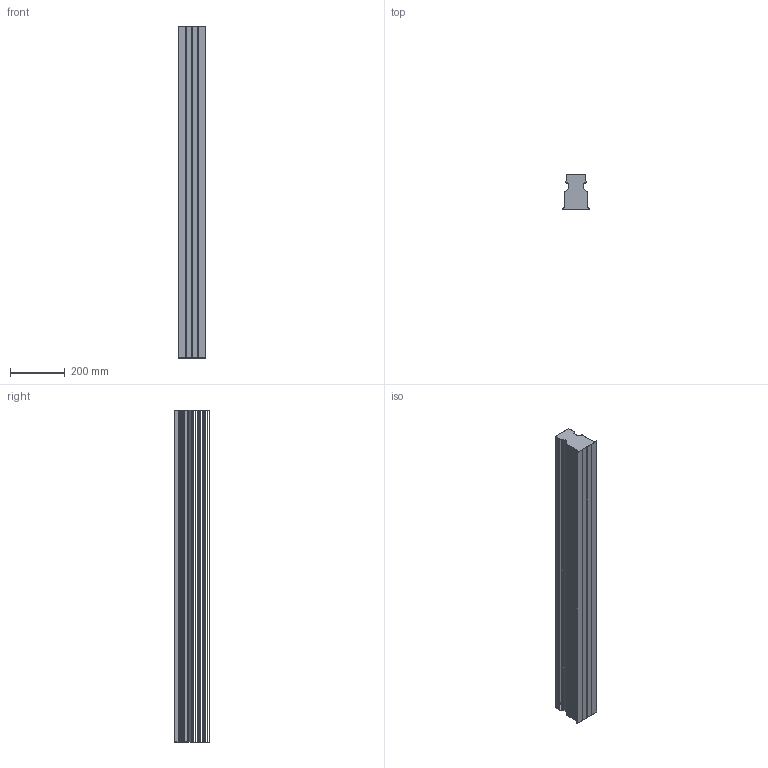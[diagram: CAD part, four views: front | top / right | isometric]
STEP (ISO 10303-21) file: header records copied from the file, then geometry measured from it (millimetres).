
FILE_DESCRIPTION((''),'2;1');
FILE_NAME('IN_1200_SW0001','2025-07-28T11:11:36',('Piccioli'),(''),'CREO PARAMETRIC BY PTC INC, 2025010','CREO PARAMETRIC BY PTC INC, 2025010','');
FILE_SCHEMA(('CONFIG_CONTROL_DESIGN'));
Length unit declared in the file: millimetre
Products named in the file (1): IN_1200_SW0001
Bounding box: 101 x 128.65 x 1208 mm (x, y, z)
Surface area: 371176.2 mm2 (no closed solid volume)
Topology: 0 solids, 48 shells, 54 faces, 326 edges, 320 vertices
Faces by surface type: cylinder 29, plane 25
Entity records: 3222 total; most frequent: CARTESIAN_POINT 708, DIRECTION 564, ORIENTED_EDGE 332, EDGE_CURVE 326, VERTEX_POINT 320, VECTOR 192, LINE 192, AXIS2_PLACEMENT_3D 186
